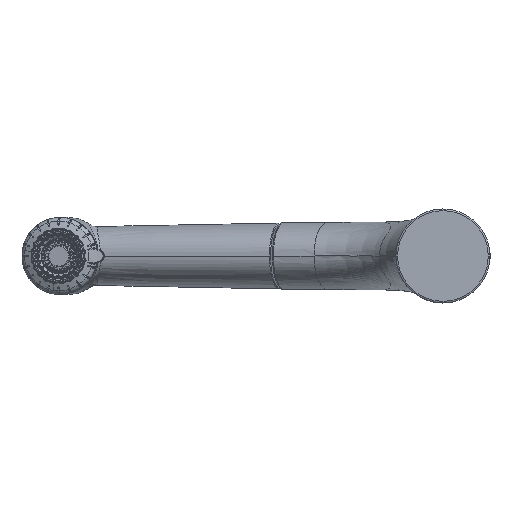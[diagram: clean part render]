
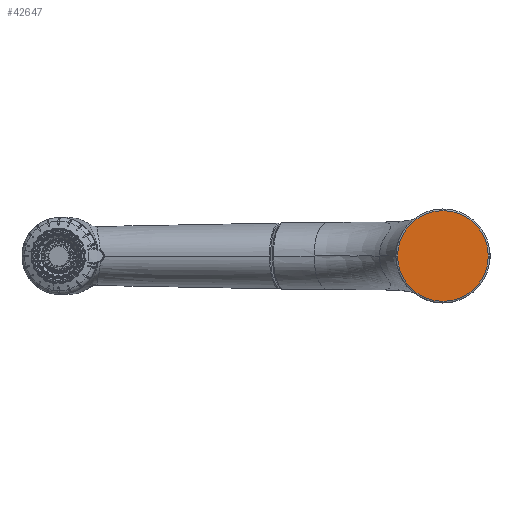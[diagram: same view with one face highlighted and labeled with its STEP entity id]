
A CAD part, left-side view. The second image highlights one B-rep face of the part: STEP entity #42647.
In plain terms, the highlighted planar face has unit normal (-1, 0, 0).
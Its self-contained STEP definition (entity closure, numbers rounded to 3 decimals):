
#1074=CARTESIAN_POINT('',(-171.,0.,0.));
#1075=DIRECTION('',(-1.,0.,0.));
#1076=DIRECTION('',(0.,-1.,0.));
#1077=AXIS2_PLACEMENT_3D('',#1074,#1075,#1076);
#1079=CARTESIAN_POINT('',(-171.,0.,0.));
#1080=DIRECTION('',(-1.,0.,0.));
#1081=DIRECTION('',(0.,1.,0.));
#1082=AXIS2_PLACEMENT_3D('',#1079,#1080,#1081);
#40051=CARTESIAN_POINT('',(-171.,-26.5,0.));
#40052=CARTESIAN_POINT('',(-171.,26.5,0.));
#40053=VERTEX_POINT('',#40051);
#40054=VERTEX_POINT('',#40052);
#42637=CARTESIAN_POINT('',(-171.,0.,0.));
#42638=DIRECTION('',(1.,0.,0.));
#42639=DIRECTION('',(0.,1.,0.));
#42640=AXIS2_PLACEMENT_3D('',#42637,#42638,#42639);
#42641=PLANE('',#42640);
#42643=ORIENTED_EDGE('',*,*,#42642,.F.);
#42644=ORIENTED_EDGE('',*,*,#42627,.F.);
#42645=EDGE_LOOP('',(#42643,#42644));
#42646=FACE_OUTER_BOUND('',#42645,.F.);
#42647=ADVANCED_FACE('',(#42646),#42641,.F.);
#1078=CIRCLE('',#1077,26.5);
#1083=CIRCLE('',#1082,26.5);
#42627=EDGE_CURVE('',#40054,#40053,#1083,.T.);
#42642=EDGE_CURVE('',#40053,#40054,#1078,.T.);
